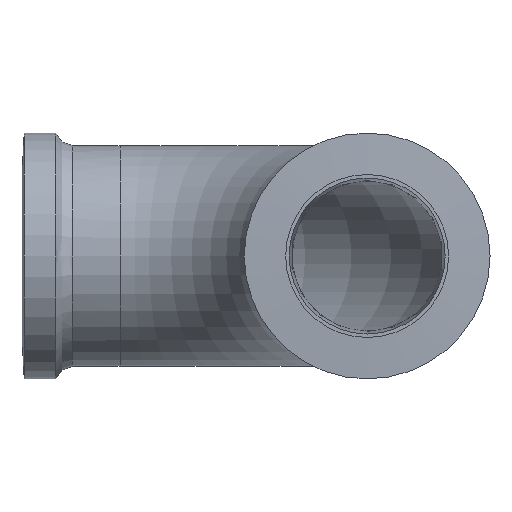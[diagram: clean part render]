
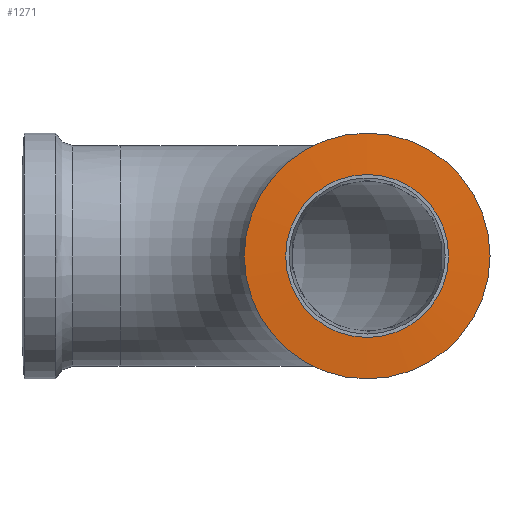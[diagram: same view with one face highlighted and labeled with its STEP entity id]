
A CAD part, left-side view. The second image highlights one B-rep face of the part: STEP entity #1271.
In plain terms, the highlighted conical face has half-angle 87 degrees and reference radius 14.8 mm.
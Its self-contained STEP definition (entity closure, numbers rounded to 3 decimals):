
#1244=CARTESIAN_POINT('',(0.157,0.,0.0));
#1245=DIRECTION('',(1.0,0.,0.0));
#1246=DIRECTION('',(0.0,0.0,-1.0));
#1247=AXIS2_PLACEMENT_3D('',#1244,#1245,#1246);
#1248=CONICAL_SURFACE('',#1247,14.8,87.);
#1249=CARTESIAN_POINT('',(0.,0.,11.8));
#1250=VERTEX_POINT('',#1249);
#1251=CARTESIAN_POINT('',(0.0,0.,0.0));
#1252=DIRECTION('',(1.0,0.0,0.0));
#1253=DIRECTION('',(0.0,0.0,-1.0));
#1254=AXIS2_PLACEMENT_3D('',#1251,#1252,#1253);
#1255=CIRCLE('',#1254,11.8);
#1256=EDGE_CURVE('',#1250,#1250,#1255,.T.);
#1257=ORIENTED_EDGE('',*,*,#1256,.T.);
#1258=EDGE_LOOP('',(#1257));
#1259=FACE_OUTER_BOUND('',#1258,.T.);
#1260=CARTESIAN_POINT('',(0.314,0.,17.8));
#1261=VERTEX_POINT('',#1260);
#1262=CARTESIAN_POINT('',(0.314,0.,0.0));
#1263=DIRECTION('',(-1.0,0.0,0.0));
#1264=DIRECTION('',(0.0,0.0,-1.0));
#1265=AXIS2_PLACEMENT_3D('',#1262,#1263,#1264);
#1266=CIRCLE('',#1265,17.8);
#1267=EDGE_CURVE('',#1261,#1261,#1266,.T.);
#1268=ORIENTED_EDGE('',*,*,#1267,.T.);
#1269=EDGE_LOOP('',(#1268));
#1270=FACE_BOUND('',#1269,.T.);
#1271=ADVANCED_FACE('',(#1259,#1270),#1248,.T.);
